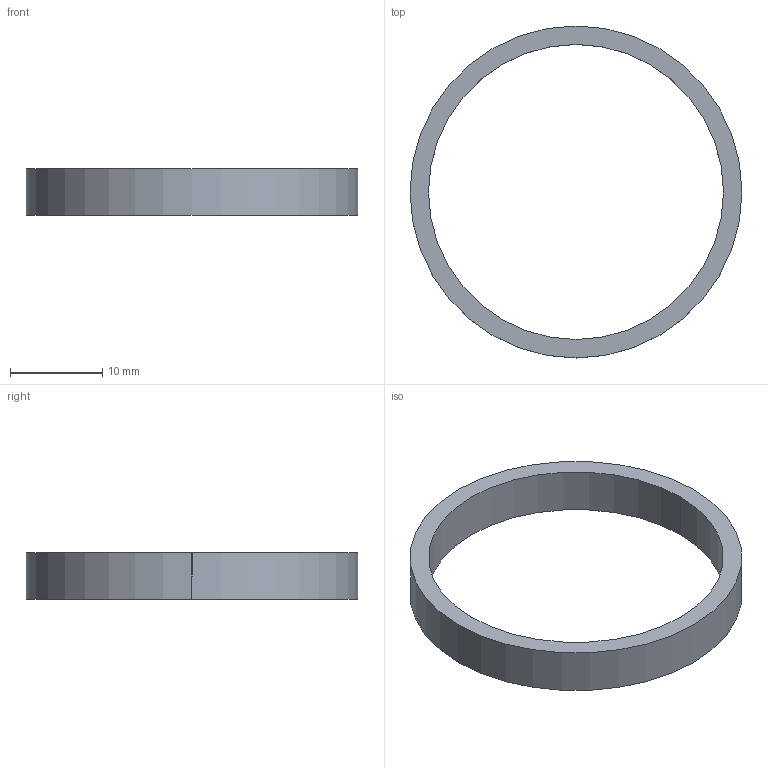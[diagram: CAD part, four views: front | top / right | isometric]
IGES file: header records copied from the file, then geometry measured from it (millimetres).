
Global section: file name: C:\Documents and Settings\Administrator\Desktop\Transfer Temp\highspeedring.igs; native system: AutoDesk Inventor R2.0 ; preprocessor: AutoDesk Inventor Iges Exporter R2.0; author: No Author specified; organization: No Organization specified; date: 20011230.151008; units: millimetre
Bounding box: 36 x 36 x 5 mm (x, y, z)
Surface area: 1495.4 mm2 (no closed solid volume)
Topology: 0 solids, 0 shells, 6 faces, 24 edges, 24 vertices
Faces by surface type: revolution 4, bspline 2
